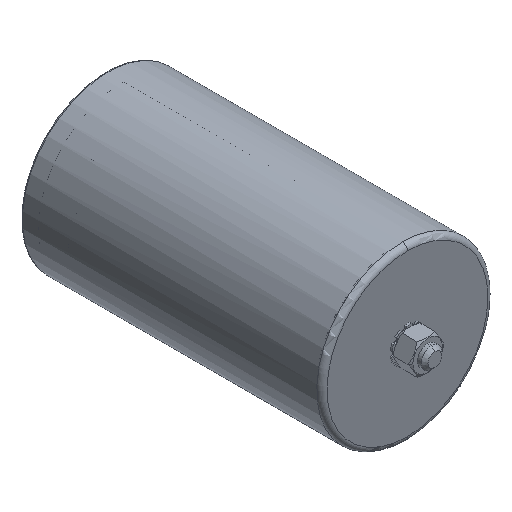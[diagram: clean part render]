
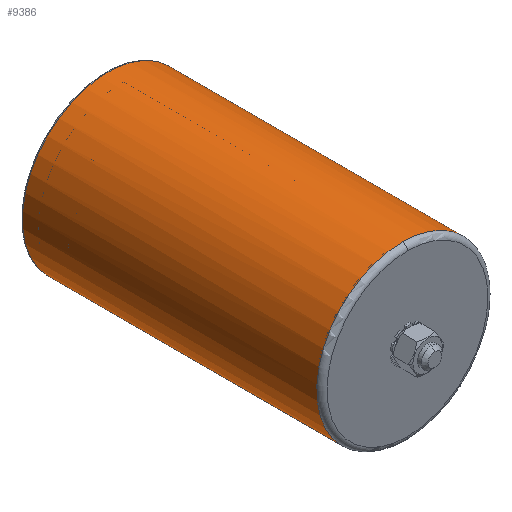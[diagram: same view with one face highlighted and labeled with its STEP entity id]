
A CAD part, isometric view. The second image highlights one B-rep face of the part: STEP entity #9386.
In plain terms, the highlighted cylindrical face has radius 50 mm (diameter 100 mm), a partial arc.
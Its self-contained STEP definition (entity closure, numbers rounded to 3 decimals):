
#141 = DIRECTION ( 'NONE',  ( 0., 1., 0. ) ) ;
#200 = EDGE_CURVE ( 'NONE', #6102, #4297, #7313, .T. ) ;
#443 = CARTESIAN_POINT ( 'NONE',  ( 35.355, 3., 35.355 ) ) ;
#896 = FACE_OUTER_BOUND ( 'NONE', #10277, .T. ) ;
#953 = CYLINDRICAL_SURFACE ( 'NONE', #3725, 50. ) ;
#1030 = CARTESIAN_POINT ( 'NONE',  ( -35.355, 166., -35.355 ) ) ;
#1058 = VERTEX_POINT ( 'NONE', #443 ) ;
#1269 = DIRECTION ( 'NONE',  ( 0., 1., 0. ) ) ;
#1961 = DIRECTION ( 'NONE',  ( -0.707, 0., -0.707 ) ) ;
#2598 = EDGE_CURVE ( 'NONE', #1058, #10738, #6629, .T. ) ;
#2709 = ORIENTED_EDGE ( 'NONE', *, *, #200, .F. ) ;
#2842 = CARTESIAN_POINT ( 'NONE',  ( 0., 175., 0. ) ) ;
#2984 = DIRECTION ( 'NONE',  ( 0., 0., 1. ) ) ;
#3086 = CIRCLE ( 'NONE', #11137, 50. ) ;
#3725 = AXIS2_PLACEMENT_3D ( 'NONE', #8871, #5185, #6304 ) ;
#3872 = DIRECTION ( 'NONE',  ( 0., 1., 0. ) ) ;
#4297 = VERTEX_POINT ( 'NONE', #5622 ) ;
#4544 = AXIS2_PLACEMENT_3D ( 'NONE', #5974, #5920, #6740 ) ;
#4712 = VECTOR ( 'NONE', #141, 1000. ) ;
#5185 = DIRECTION ( 'NONE',  ( 0., 1., 0. ) ) ;
#5404 = ORIENTED_EDGE ( 'NONE', *, *, #7359, .T. ) ;
#5622 = CARTESIAN_POINT ( 'NONE',  ( -35.355, 175., -35.355 ) ) ;
#5920 = DIRECTION ( 'NONE',  ( 0., 1., 0. ) ) ;
#5974 = CARTESIAN_POINT ( 'NONE',  ( 0., 3., 0. ) ) ;
#6102 = VERTEX_POINT ( 'NONE', #8942 ) ;
#6252 = EDGE_CURVE ( 'NONE', #10738, #4297, #3086, .T. ) ;
#6304 = DIRECTION ( 'NONE',  ( 0.707, 0., 0.707 ) ) ;
#6464 = ORIENTED_EDGE ( 'NONE', *, *, #2598, .T. ) ;
#6629 = LINE ( 'NONE', #7449, #10975 ) ;
#6740 = DIRECTION ( 'NONE',  ( 0., 0., 1. ) ) ;
#6994 = CARTESIAN_POINT ( 'NONE',  ( 35.355, 175., 35.355 ) ) ;
#7181 = CIRCLE ( 'NONE', #9427, 50. ) ;
#7313 = LINE ( 'NONE', #1030, #4712 ) ;
#7359 = EDGE_CURVE ( 'NONE', #6102, #9001, #10911, .T. ) ;
#7449 = CARTESIAN_POINT ( 'NONE',  ( 35.355, 166., 35.355 ) ) ;
#8014 = CARTESIAN_POINT ( 'NONE',  ( 0., 3., 50. ) ) ;
#8101 = ORIENTED_EDGE ( 'NONE', *, *, #10399, .T. ) ;
#8871 = CARTESIAN_POINT ( 'NONE',  ( 0., 166., 0. ) ) ;
#8942 = CARTESIAN_POINT ( 'NONE',  ( -35.355, 3., -35.355 ) ) ;
#9001 = VERTEX_POINT ( 'NONE', #8014 ) ;
#9312 = CARTESIAN_POINT ( 'NONE',  ( 0., 3., 0. ) ) ;
#9386 = ADVANCED_FACE ( 'NONE', ( #896 ), #953, .T. ) ;
#9427 = AXIS2_PLACEMENT_3D ( 'NONE', #9312, #1269, #2984 ) ;
#10004 = DIRECTION ( 'NONE',  ( 0., -1., 0. ) ) ;
#10277 = EDGE_LOOP ( 'NONE', ( #2709, #5404, #8101, #6464, #10450 ) ) ;
#10399 = EDGE_CURVE ( 'NONE', #9001, #1058, #7181, .T. ) ;
#10450 = ORIENTED_EDGE ( 'NONE', *, *, #6252, .T. ) ;
#10738 = VERTEX_POINT ( 'NONE', #6994 ) ;
#10911 = CIRCLE ( 'NONE', #4544, 50. ) ;
#10975 = VECTOR ( 'NONE', #3872, 1000. ) ;
#11137 = AXIS2_PLACEMENT_3D ( 'NONE', #2842, #10004, #1961 ) ;
